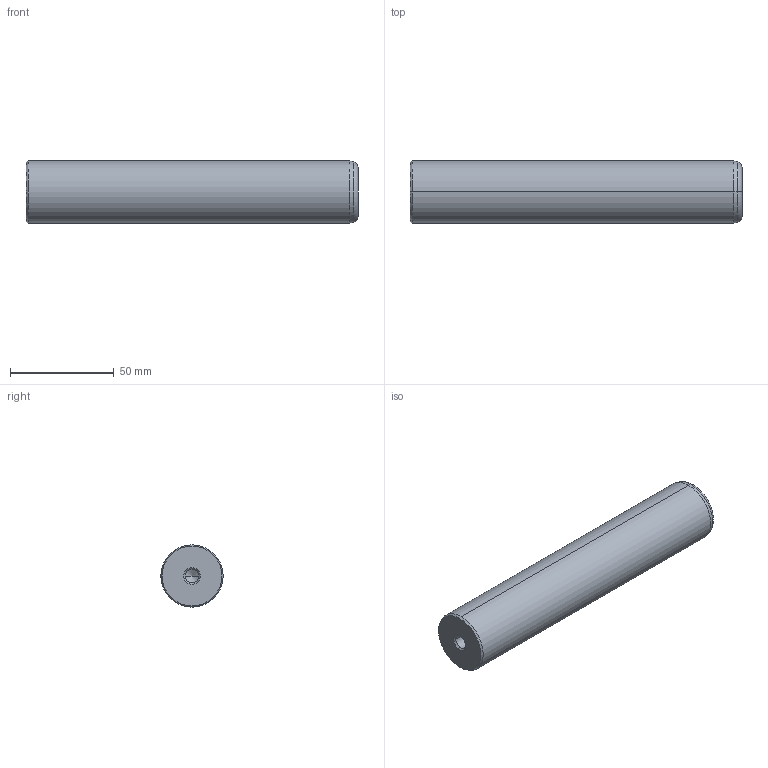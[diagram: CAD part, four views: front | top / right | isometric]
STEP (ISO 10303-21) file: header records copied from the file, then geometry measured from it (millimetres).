
FILE_DESCRIPTION(('CATIA V5 STEP Exchange'),'2;1');
FILE_NAME('C:\Users\Utente\Desktop\IO LAVORO\3D X SITO CF\X SITO\720\720-30x160.stp','2021-01-01T12:33:26+00:00',('none'),('none'),'CATIA Version 5 Release 20 GA (IN-10)','CATIA V5 STEP AP203','none');
FILE_SCHEMA(('CONFIG_CONTROL_DESIGN'));
Length unit declared in the file: millimetre
Products named in the file (1): 720-30x160
Bounding box: 160 x 30 x 30 mm (x, y, z)
Volume: 111066.5 mm3; surface area: 17290.4 mm2
Topology: 1 solids, 1 shells, 22 faces, 56 edges, 34 vertices
Faces by surface type: cone 12, cylinder 6, plane 2, torus 2
Entity records: 755 total; most frequent: CARTESIAN_POINT 216, ORIENTED_EDGE 104, DIRECTION 89, EDGE_CURVE 52, AXIS2_PLACEMENT_3D 50, VERTEX_POINT 34, CIRCLE 27, EDGE_LOOP 24
